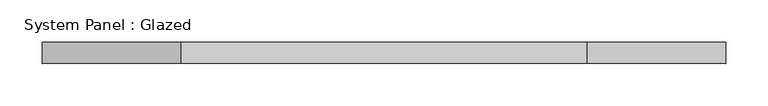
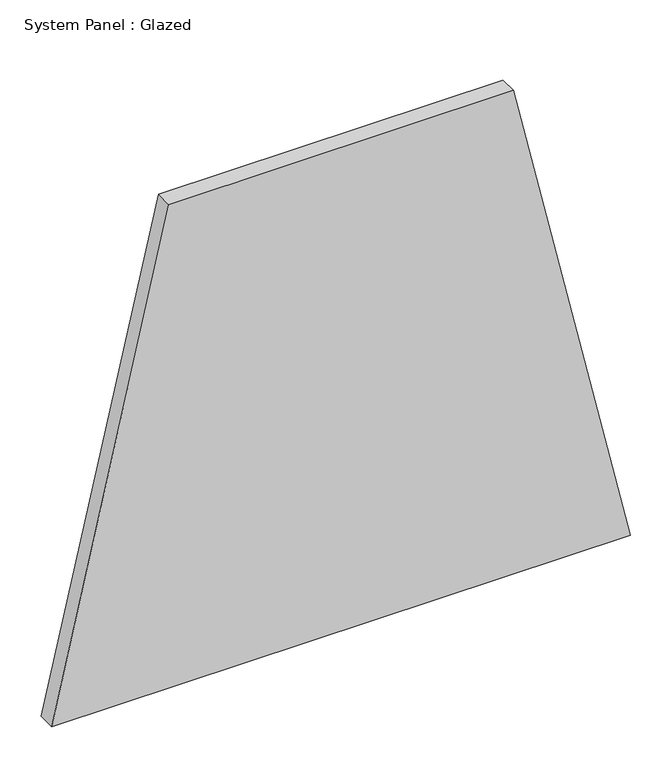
"""IFC4 building model written with IfcOpenShell, lengths in millimetres: plate geometry, System Panel : Glazed."""

import ifcopenshell
import ifcopenshell.guid

model = None  # the IFC model being written
_history = None  # IfcOwnerHistory: only IFC2X3 demands one
_inside = {}  # id of a spatial element -> (the spatial element, [elements in it])
_under = {}  # id of a project, library or spatial element -> (it, [spatial elements below it])
_declared = {}  # id of a project -> (the project, [libraries it declares])
_typed = {}  # id of a type object -> (the type object, [elements of that type])
_made_of = {}  # id of a material, layer set ... -> (it, [elements and type objects made of it])


def new_model(schema):
    """Start an empty IFC model of exactly this schema.

    Asked for "IFC4X3", IfcOpenShell would pick the latest addendum, in which some entities
    have other attributes; the version numbers below select the first issue.
    IFC2X3 requires an IfcOwnerHistory on every rooted entity: one is made here for all.
    """
    global model, _history
    if schema == "IFC4X3":
        model = ifcopenshell.file(schema_version=(4, 3, 0, 0))
    else:
        model = ifcopenshell.file(schema=schema)
    _inside.clear()
    _under.clear()
    _declared.clear()
    _typed.clear()
    _made_of.clear()
    _history = None
    if model.schema == "IFC2X3":
        org = make("IfcOrganization", Name="unknown")
        user = make(
            "IfcPersonAndOrganization",
            ThePerson=make("IfcPerson", FamilyName="unknown"),
            TheOrganization=org,
        )
        app = make(
            "IfcApplication",
            ApplicationDeveloper=org,
            Version="unknown",
            ApplicationFullName="unknown",
            ApplicationIdentifier="unknown",
        )
        _history = make(
            "IfcOwnerHistory",
            OwningUser=user,
            OwningApplication=app,
            ChangeAction="ADDED",
            CreationDate=0,
        )
    return model


def make(cls, **values):
    """One entity of the class cls with the attributes given. An attribute that is None is left unset."""
    return model.create_entity(
        cls, **{name: value for name, value in values.items() if value is not None}
    )


def rooted(cls, **values):
    """An entity with a GlobalId (a new one), such as an element, a storey or a relation."""
    return make(cls, GlobalId=ifcopenshell.guid.new(), OwnerHistory=_history, **values)


def si_unit(unit_type, name, prefix=None):
    """IfcSIUnit, for example si_unit("LENGTHUNIT", "METRE", prefix="MILLI")."""
    return make("IfcSIUnit", UnitType=unit_type, Prefix=prefix, Name=name)


def assignment(units):
    """IfcUnitAssignment: the units of a project."""
    return None if units is None else make("IfcUnitAssignment", Units=units)


def point(xyz):
    """IfcCartesianPoint."""
    return None if xyz is None else make("IfcCartesianPoint", Coordinates=xyz)


def direction(xyz):
    """IfcDirection."""
    return None if xyz is None else make("IfcDirection", DirectionRatios=xyz)


def frame(location, z_axis=None, x_axis=None):
    """IfcAxis2Placement3D, a coordinate frame: its origin and axes. An axis left out is left unset."""
    return make(
        "IfcAxis2Placement3D",
        Location=point(location),
        Axis=direction(z_axis),
        RefDirection=direction(x_axis),
    )


def origin():
    """The frame at (0, 0, 0) with its axes left unset."""
    return frame((0.0, 0.0, 0.0))


def place(relative_to, where):
    """IfcLocalPlacement: puts the frame where relative to a parent placement (None: the world)."""
    return make(
        "IfcLocalPlacement", PlacementRelTo=relative_to, RelativePlacement=where
    )


def context(
    kind, dimensions, precision=None, world=None, true_north=None, identifier=None
):
    """IfcGeometricRepresentationContext, for example the 3D "Model" context."""
    return make(
        "IfcGeometricRepresentationContext",
        ContextIdentifier=identifier,
        ContextType=kind,
        CoordinateSpaceDimension=dimensions,
        Precision=precision,
        WorldCoordinateSystem=world,
        TrueNorth=true_north,
    )


def project(units=None, contexts=None):
    """IfcProject with its units and contexts."""
    return rooted(
        "IfcProject",
        Name="project",
        RepresentationContexts=contexts,
        UnitsInContext=assignment(units),
    )


def spatial(cls, under=None, at=None, **own):
    """A site, building, storey or space (cls), placed at a placement, below another one or the project."""
    s = rooted(cls, ObjectPlacement=at, **own)
    if under is not None:
        _under.setdefault(under.id(), (under, []))[1].append(s)
    return s


def polyline(points):
    """IfcPolyline through the points."""
    return make("IfcPolyline", Points=[point(p) for p in points])


def outline(outer, holes=None, kind="AREA"):
    """IfcArbitraryClosedProfileDef: a profile drawn as a closed curve; with holes, ...WithVoids."""
    if holes is None:
        return make("IfcArbitraryClosedProfileDef", ProfileType=kind, OuterCurve=outer)
    return make(
        "IfcArbitraryProfileDefWithVoids",
        ProfileType=kind,
        OuterCurve=outer,
        InnerCurves=holes,
    )


def extrude(swept, where, along, depth):
    """IfcExtrudedAreaSolid: the profile swept, set in the frame where, extruded along a direction by depth."""
    return make(
        "IfcExtrudedAreaSolid",
        SweptArea=swept,
        Position=where,
        ExtrudedDirection=direction(along),
        Depth=depth,
    )


def shape(context_of_items, identifier, shape_type, items):
    """IfcShapeRepresentation: the items that make up one representation, for example the "Body"."""
    return make(
        "IfcShapeRepresentation",
        ContextOfItems=context_of_items,
        RepresentationIdentifier=identifier,
        RepresentationType=shape_type,
        Items=items,
    )


def source(mapping_origin, context_of_items, identifier, shape_type, items):
    """IfcRepresentationMap: a shape defined once, which mapped items show again and again."""
    return make(
        "IfcRepresentationMap",
        MappingOrigin=mapping_origin,
        MappedRepresentation=shape(context_of_items, identifier, shape_type, items),
    )


def transform(
    local_origin,
    x_axis=None,
    y_axis=None,
    z_axis=None,
    scale=None,
    scale2=None,
    scale3=None,
    uniform=True,
):
    """IfcCartesianTransformationOperator3D, or its non-uniform kind. x_axis, y_axis, z_axis: its Axis1, 2, 3."""
    if uniform:
        return make(
            "IfcCartesianTransformationOperator3D",
            Axis1=direction(x_axis),
            Axis2=direction(y_axis),
            LocalOrigin=point(local_origin),
            Scale=scale,
            Axis3=direction(z_axis),
        )
    return make(
        "IfcCartesianTransformationOperator3DnonUniform",
        Axis1=direction(x_axis),
        Axis2=direction(y_axis),
        LocalOrigin=point(local_origin),
        Scale=scale,
        Axis3=direction(z_axis),
        Scale2=scale2,
        Scale3=scale3,
    )


def mapped(mapping_source, mapping_target):
    """IfcMappedItem: shows the shape of a source again, moved by a transform."""
    return make(
        "IfcMappedItem", MappingSource=mapping_source, MappingTarget=mapping_target
    )


def made_of(thing, what):
    """Note that an element or type object is made of a material, layer set ...; save() writes the relation."""
    if what is not None:
        _made_of.setdefault(what.id(), (what, []))[1].append(thing)
    return thing


def element(
    cls,
    number,
    at=None,
    inside=None,
    cuts=None,
    type_object=None,
    material=None,
    context=None,
    identifier="Body",
    shape_type=None,
    held_by="IfcProductDefinitionShape",
    body=None,
    shapes=None,
    **own,
):
    """One element of the class cls, such as IfcWall. Its Tag is "e" and its number.

    at: its placement. inside: the storey or other place that contains it. cuts: it is an
    opening in that element (IfcRelVoidsElement). A single representation is given by context,
    identifier, shape_type and body (its items); several are given by shapes. held_by: the class
    of the entity that holds the representations. save() writes the other relations.
    """
    e = rooted(cls, Tag="e%d" % number, ObjectPlacement=at, **own)
    if body is not None:
        shapes = [shape(context, identifier, shape_type, body)]
    if shapes is not None:
        e.Representation = make(held_by, Representations=shapes)
    if inside is not None:
        _inside.setdefault(inside.id(), (inside, []))[1].append(e)
    if cuts is not None:
        rooted(
            "IfcRelVoidsElement", RelatingBuildingElement=cuts, RelatedOpeningElement=e
        )
    if type_object is not None:
        _typed.setdefault(type_object.id(), (type_object, []))[1].append(e)
    return made_of(e, material)


def aggregate(whole, parts):
    """IfcRelAggregates: a whole, such as a stair, and the parts it consists of."""
    return rooted("IfcRelAggregates", RelatingObject=whole, RelatedObjects=parts)


def save(model, path):
    """Write the relations noted so far, then the file.

    IfcRelAggregates (storeys below a building ...), IfcRelContainedInSpatialStructure (elements
    in a storey), IfcRelDefinesByType, IfcRelAssociatesMaterial and IfcRelDeclares: one each for
    every whole, place, type object, material and project.
    """
    for whole, parts in _under.values():
        aggregate(whole, parts)
    for where, things in _inside.values():
        rooted(
            "IfcRelContainedInSpatialStructure",
            RelatedElements=things,
            RelatingStructure=where,
        )
    for kind, things in _typed.values():
        rooted("IfcRelDefinesByType", RelatedObjects=things, RelatingType=kind)
    for what, things in _made_of.values():
        rooted("IfcRelAssociatesMaterial", RelatedObjects=things, RelatingMaterial=what)
    for by, libraries in _declared.values():
        rooted("IfcRelDeclares", RelatingContext=by, RelatedDefinitions=libraries)
    model.write(path)


def system_panel_glazed_e8cc6fa0(model_context):
    return source(origin(), model_context, "Body", "SweptSolid", [
        extrude(outline(polyline([(0.0, -406.4555288), (0.0, 406.4555288), (717.2744852, 241.763078), (717.2744852, -241.763078), (0.0, -406.4555288)])), frame((0.0, -44.45, 0.0), z_axis=(0.0, 1.0, 0.0), x_axis=(0.0, 0.0, 1.0)), (0.0, 0.0, 1.0), 25.4),
    ])


if __name__ == "__main__":
    model = new_model("IFC4")
    model_context = context("Model", 3, world=origin())
    ifc_project = project(units=[si_unit("LENGTHUNIT", "METRE", prefix="MILLI")], contexts=[model_context])
    site = spatial("IfcSite", under=ifc_project)
    building = spatial("IfcBuilding", under=site)
    placement = place(None, origin())
    system_panel_glazed_shape = system_panel_glazed_e8cc6fa0(model_context)
    element("IfcPlate", 1, ObjectType="System Panel : Glazed", at=placement, inside=building, context=model_context, shape_type="MappedRepresentation", body=[
        mapped(system_panel_glazed_shape, transform((0.0, 0.0, 0.0), x_axis=(1.0, 0.0, 0.0), y_axis=(0.0, 1.0, 0.0), z_axis=(0.0, 0.0, 1.0))),
    ])
    save(model, "model.ifc")
